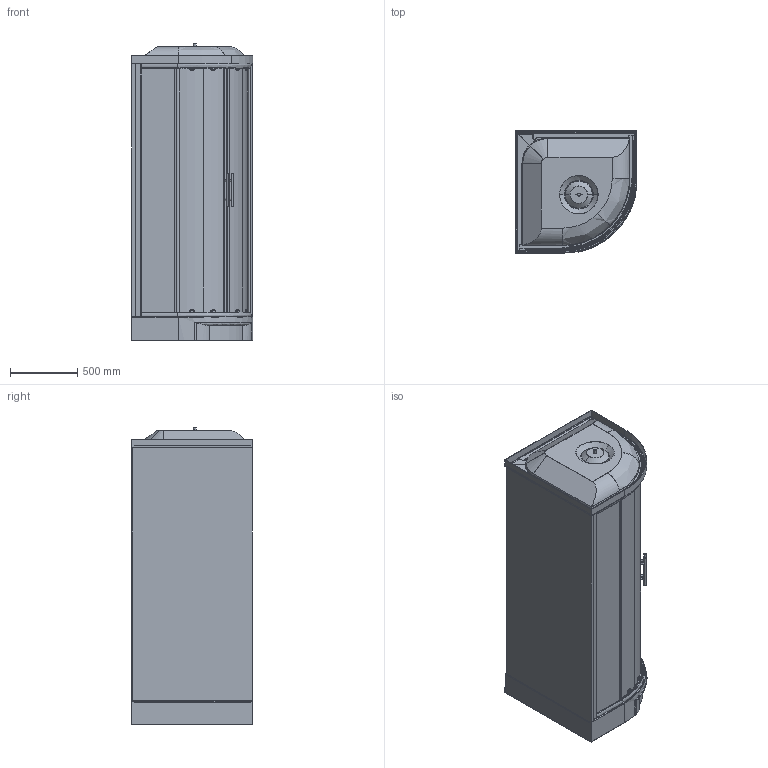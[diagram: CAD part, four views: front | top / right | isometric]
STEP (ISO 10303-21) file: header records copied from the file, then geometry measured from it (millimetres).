
FILE_DESCRIPTION(('STEP AP203'),'2;1');
FILE_NAME('NNH R90 T 19 F.stp','2015-09-04T15:52:44',(''),(''),'2014.1.117','THINKDESIGN','');
FILE_SCHEMA(('CONFIG_CONTROL_DESIGN'));
Length unit declared in the file: millimetre
Products named in the file (1): top
Bounding box: 904 x 904 x 2198.46 mm (x, y, z)
Volume: 209178340.7 mm3; surface area: 19535934.7 mm2
Topology: 55 solids, 55 shells, 1038 faces, 2418 edges, 1502 vertices
Faces by surface type: bspline 645, plane 289, cylinder 104
Entity records: 104194 total; most frequent: CARTESIAN_POINT 84629, ORIENTED_EDGE 4788, DIRECTION 2565, EDGE_CURVE 2394, VERTEX_POINT 1494, EDGE_LOOP 1066, FACE_OUTER_BOUND 1036, ADVANCED_FACE 1036
